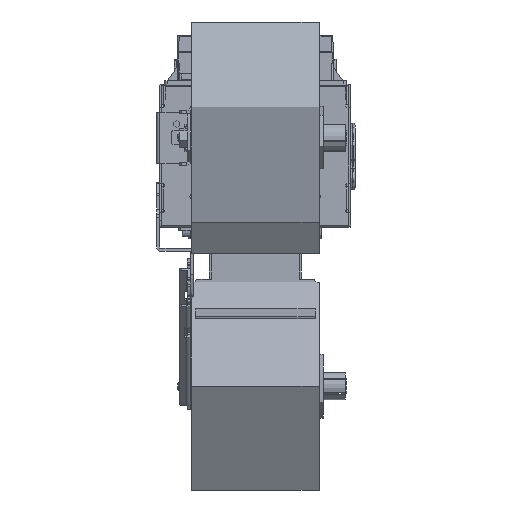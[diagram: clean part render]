
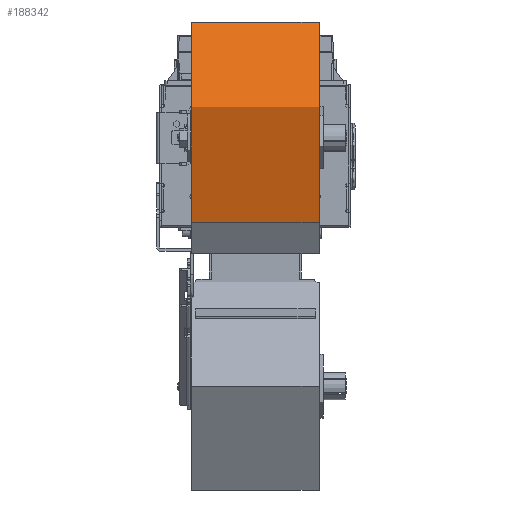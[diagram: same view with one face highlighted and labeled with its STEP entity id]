
A CAD part, front view. The second image highlights one B-rep face of the part: STEP entity #188342.
In plain terms, the highlighted cylindrical face has radius 75 mm (diameter 150 mm), a partial arc.
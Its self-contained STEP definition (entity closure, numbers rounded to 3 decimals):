
#188230=CARTESIAN_POINT('',(40.,-143.046,54.6));
#188231=DIRECTION('',(-1.,0.,0.));
#188232=DIRECTION('',(0.,-0.707,-0.707));
#188233=AXIS2_PLACEMENT_3D('',#188230,#188231,#188232);
#188245=DIRECTION('',(-1.,0.,0.));
#188246=VECTOR('',#188245,80.);
#188247=CARTESIAN_POINT('',(40.,-90.013,107.633));
#188248=LINE('',#188247,#188246);
#188249=DIRECTION('',(1.,0.,0.));
#188250=VECTOR('',#188249,80.);
#188251=CARTESIAN_POINT('',(-40.,-196.079,1.567));
#188252=LINE('',#188251,#188250);
#188258=CARTESIAN_POINT('',(-40.,-143.046,54.6));
#188259=DIRECTION('',(1.,0.,0.));
#188260=DIRECTION('',(0.,0.707,0.707));
#188261=AXIS2_PLACEMENT_3D('',#188258,#188259,#188260);
#188281=CARTESIAN_POINT('',(40.,-90.013,107.633));
#188282=CARTESIAN_POINT('',(40.,-196.079,1.567));
#188283=VERTEX_POINT('',#188281);
#188284=VERTEX_POINT('',#188282);
#188289=CARTESIAN_POINT('',(-40.,-90.013,107.633));
#188290=VERTEX_POINT('',#188289);
#188291=CARTESIAN_POINT('',(-40.,-196.079,1.567));
#188292=VERTEX_POINT('',#188291);
#188330=CARTESIAN_POINT('',(41.6,-143.046,54.6));
#188331=DIRECTION('',(-1.,0.,0.));
#188332=DIRECTION('',(0.,0.707,0.707));
#188333=AXIS2_PLACEMENT_3D('',#188330,#188331,#188332);
#188334=CYLINDRICAL_SURFACE('',#188333,75.);
#188335=ORIENTED_EDGE('',*,*,#188304,.F.);
#188336=ORIENTED_EDGE('',*,*,#188325,.F.);
#188338=ORIENTED_EDGE('',*,*,#188337,.F.);
#188339=ORIENTED_EDGE('',*,*,#188321,.F.);
#188340=EDGE_LOOP('',(#188335,#188336,#188338,#188339));
#188341=FACE_OUTER_BOUND('',#188340,.F.);
#188234=CIRCLE('',#188233,75.);
#188262=CIRCLE('',#188261,75.);
#188304=EDGE_CURVE('',#188284,#188283,#188234,.T.);
#188321=EDGE_CURVE('',#188283,#188290,#188248,.T.);
#188325=EDGE_CURVE('',#188292,#188284,#188252,.T.);
#188337=EDGE_CURVE('',#188290,#188292,#188262,.T.);
#188342=ADVANCED_FACE('',(#188341),#188334,.T.);
